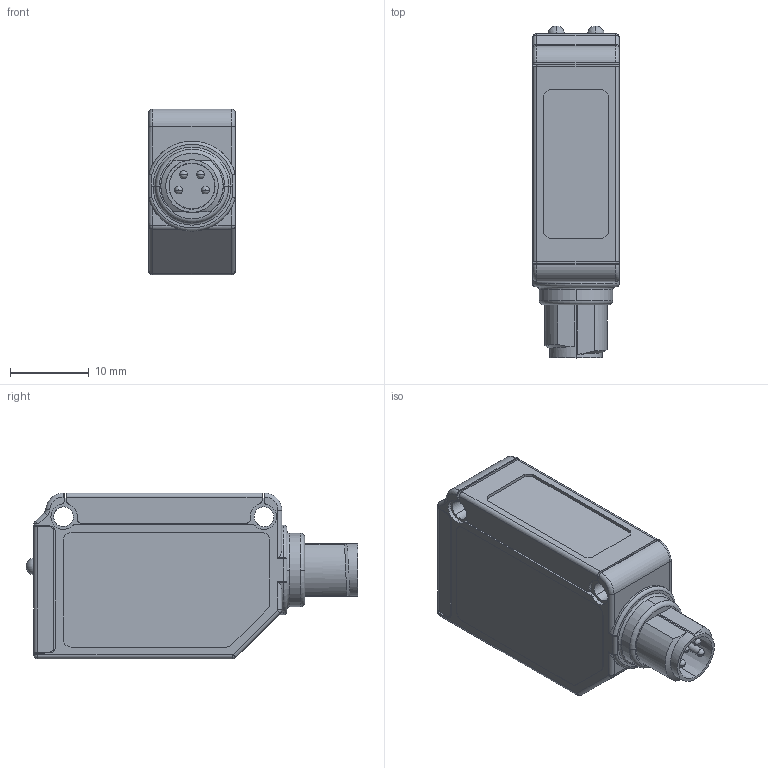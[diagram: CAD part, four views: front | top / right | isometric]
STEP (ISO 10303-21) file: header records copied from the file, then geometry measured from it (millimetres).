
FILE_DESCRIPTION(('Creo Elements/Direct Modeling STEP Export'),'2;1');
FILE_NAME('C:/Users/pe/Desktop//2260-PD30-plug-blind-cap-for-kunde.stp','2016-04-04T11:06:03',('Palle Edslev pe@edslev.dk'),('EDSLEV A/S'),'Creo Elements/Direct Modeling STEP processor for AP214 (Solid Model)','Creo Elements/Direct Modeling 18.1H 24-Oct-2015 (C) Parametric Technology GmbH','');
FILE_SCHEMA(('AUTOMOTIVE_DESIGN { 1 0 10303 214 1 1 1 1 }'));
Length unit declared in the file: millimetre
Products named in the file (2): PD30-plug-Stainless-steel-blind-cap-for-kunde.1
Assembly tree (1 placements, depth 2):
  PD30-plug-Stainless-steel-blind-cap-for-kunde.1
    PD30-plug-Stainless-steel-blind-cap-for-kunde.1
Bounding box: 11 x 42.05 x 21 mm (x, y, z)
Volume: 7146.9 mm3; surface area: 3000.1 mm2
Topology: 1 solids, 1 shells, 236 faces, 625 edges, 398 vertices
Faces by surface type: cylinder 112, plane 80, torus 28, sphere 8, cone 6, bspline 2
Entity records: 7503 total; most frequent: CARTESIAN_POINT 1784, ORIENTED_EDGE 1234, DIRECTION 1181, EDGE_CURVE 617, AXIS2_PLACEMENT_3D 451, VERTEX_POINT 398, VECTOR 279, LINE 279
